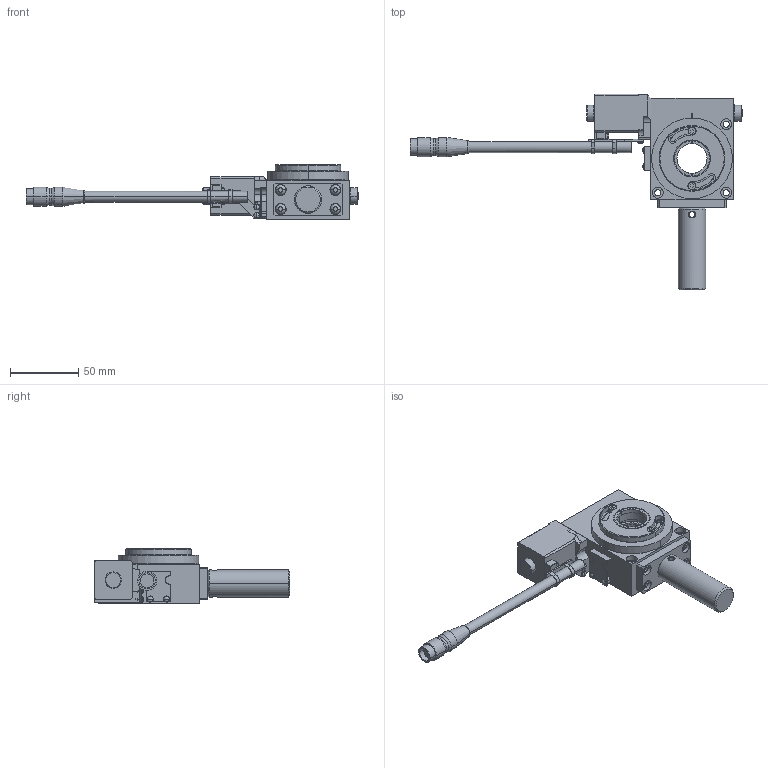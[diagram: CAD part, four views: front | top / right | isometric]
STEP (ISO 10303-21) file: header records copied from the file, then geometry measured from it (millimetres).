
FILE_DESCRIPTION(('STEP AP203'),'1');
FILE_NAME('C:\3D-trans/3D_FPW06360C-25+240902.step','2024-09-02T06:59:51',(' '),(' '),'Spatial InterOp 3D',' ',' ');
FILE_SCHEMA(('CONFIG_CONTROL_DESIGN'));
Length unit declared in the file: millimetre
Products named in the file (14): 1; 2; 3; 4; 5; 6; 7; 8; 9; 10; 11; 12; 13; 14
Bounding box: 242.5 x 143 x 40 mm (x, y, z)
Volume: 193197.1 mm3; surface area: 58093.2 mm2
Topology: 14 solids, 14 shells, 547 faces, 1341 edges, 851 vertices
Faces by surface type: plane 233, cylinder 214, cone 68, sphere 16, torus 12, bspline 4
Entity records: 17213 total; most frequent: CARTESIAN_POINT 3249, DIRECTION 2957, ORIENTED_EDGE 2650, EDGE_CURVE 1325, AXIS2_PLACEMENT_3D 1107, VERTEX_POINT 851, LINE 743, VECTOR 743
